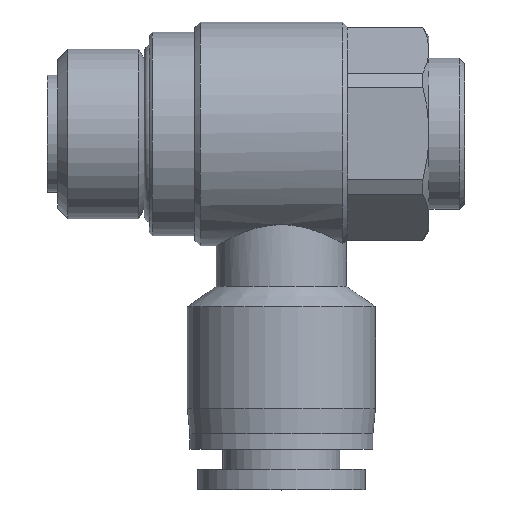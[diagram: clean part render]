
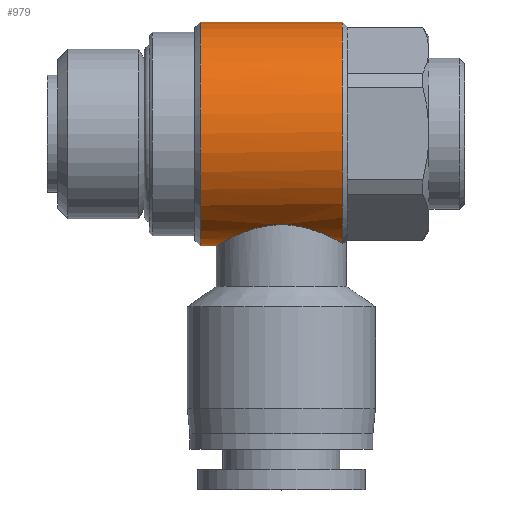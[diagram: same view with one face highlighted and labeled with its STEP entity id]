
A CAD part, top view. The second image highlights one B-rep face of the part: STEP entity #979.
In plain terms, the highlighted cylindrical face has radius 11 mm (diameter 22 mm), a full revolution.
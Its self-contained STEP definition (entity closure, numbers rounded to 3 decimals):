
#67=B_SPLINE_CURVE_WITH_KNOTS('',3,(#1619,#1620,#1621,#1622,#1623,#1624,
#1625,#1626,#1627,#1628),.UNSPECIFIED.,.F.,.F.,(4,2,2,2,4),(0.,0.249,
0.498,0.745,0.771),.UNSPECIFIED.);
#68=B_SPLINE_CURVE_WITH_KNOTS('',3,(#1629,#1630,#1631,#1632,#1633,#1634,
#1635,#1636,#1637,#1638,#1639,#1640,#1641,#1642,#1643,#1644,#1645,#1646,
#1647,#1648,#1649,#1650,#1651,#1652,#1653,#1654),.UNSPECIFIED.,.F.,.F.,
(4,2,2,2,2,2,2,2,2,2,2,2,4),(1.214,1.24,1.488,
1.736,1.985,2.234,2.483,2.73,
2.978,3.225,3.473,3.722,3.97),
 .UNSPECIFIED.);
#168=CYLINDRICAL_SURFACE('',#1077,11.);
#196=FACE_BOUND('',#324,.T.);
#237=FACE_OUTER_BOUND('',#323,.T.);
#323=EDGE_LOOP('',(#743));
#324=EDGE_LOOP('',(#744,#745,#746));
#431=CIRCLE('',#1076,11.);
#432=CIRCLE('',#1078,11.);
#509=VERTEX_POINT('',#1602);
#510=VERTEX_POINT('',#1603);
#511=VERTEX_POINT('',#1616);
#512=VERTEX_POINT('',#1618);
#607=EDGE_CURVE('',#509,#510,#431,.T.);
#608=EDGE_CURVE('',#511,#511,#432,.T.);
#609=EDGE_CURVE('',#512,#509,#67,.T.);
#610=EDGE_CURVE('',#510,#512,#68,.T.);
#743=ORIENTED_EDGE('',*,*,#608,.F.);
#744=ORIENTED_EDGE('',*,*,#607,.F.);
#745=ORIENTED_EDGE('',*,*,#609,.F.);
#746=ORIENTED_EDGE('',*,*,#610,.F.);
#979=ADVANCED_FACE('',(#237,#196),#168,.T.);
#1076=AXIS2_PLACEMENT_3D('',#1614,#1241,#1242);
#1077=AXIS2_PLACEMENT_3D('',#1615,#1243,#1244);
#1078=AXIS2_PLACEMENT_3D('',#1617,#1245,#1246);
#1241=DIRECTION('center_axis',(1.,0.,0.));
#1242=DIRECTION('ref_axis',(0.,1.,0.));
#1243=DIRECTION('center_axis',(1.,0.,0.));
#1244=DIRECTION('ref_axis',(0.,1.,0.));
#1245=DIRECTION('center_axis',(-1.,0.,0.));
#1246=DIRECTION('ref_axis',(0.,-1.,0.));
#1602=CARTESIAN_POINT('',(6.,-10.772,-2.227));
#1603=CARTESIAN_POINT('',(6.,-10.772,2.227));
#1614=CARTESIAN_POINT('Origin',(6.,0.,0.));
#1615=CARTESIAN_POINT('Origin',(10.5,0.,0.));
#1616=CARTESIAN_POINT('',(-8.,11.,0.));
#1617=CARTESIAN_POINT('Origin',(-8.,0.,0.));
#1618=CARTESIAN_POINT('',(0.,-8.947,-6.4));
#1619=CARTESIAN_POINT('Ctrl Pts',(0.,-8.947,-6.4));
#1620=CARTESIAN_POINT('Ctrl Pts',(0.829,-8.947,-6.4));
#1621=CARTESIAN_POINT('Ctrl Pts',(1.694,-9.074,-6.23));
#1622=CARTESIAN_POINT('Ctrl Pts',(3.261,-9.492,-5.572));
#1623=CARTESIAN_POINT('Ctrl Pts',(3.967,-9.774,-5.084));
#1624=CARTESIAN_POINT('Ctrl Pts',(5.081,-10.277,-3.97));
#1625=CARTESIAN_POINT('Ctrl Pts',(5.571,-10.536,-3.263));
#1626=CARTESIAN_POINT('Ctrl Pts',(5.936,-10.736,-2.395));
#1627=CARTESIAN_POINT('Ctrl Pts',(5.969,-10.755,-2.311));
#1628=CARTESIAN_POINT('Ctrl Pts',(6.,-10.772,-2.227));
#1629=CARTESIAN_POINT('Ctrl Pts',(6.,-10.772,2.227));
#1630=CARTESIAN_POINT('Ctrl Pts',(5.969,-10.755,2.311));
#1631=CARTESIAN_POINT('Ctrl Pts',(5.936,-10.736,2.395));
#1632=CARTESIAN_POINT('Ctrl Pts',(5.571,-10.536,3.263));
#1633=CARTESIAN_POINT('Ctrl Pts',(5.081,-10.277,3.97));
#1634=CARTESIAN_POINT('Ctrl Pts',(3.967,-9.774,5.084));
#1635=CARTESIAN_POINT('Ctrl Pts',(3.261,-9.492,5.572));
#1636=CARTESIAN_POINT('Ctrl Pts',(1.694,-9.074,6.23));
#1637=CARTESIAN_POINT('Ctrl Pts',(0.829,-8.947,6.4));
#1638=CARTESIAN_POINT('Ctrl Pts',(-0.829,-8.947,
6.4));
#1639=CARTESIAN_POINT('Ctrl Pts',(-1.694,-9.074,6.23));
#1640=CARTESIAN_POINT('Ctrl Pts',(-3.261,-9.492,5.572));
#1641=CARTESIAN_POINT('Ctrl Pts',(-3.967,-9.774,5.084));
#1642=CARTESIAN_POINT('Ctrl Pts',(-5.081,-10.277,3.97));
#1643=CARTESIAN_POINT('Ctrl Pts',(-5.571,-10.536,3.263));
#1644=CARTESIAN_POINT('Ctrl Pts',(-6.231,-10.899,1.692));
#1645=CARTESIAN_POINT('Ctrl Pts',(-6.4,-11.,0.825));
#1646=CARTESIAN_POINT('Ctrl Pts',(-6.4,-11.,-0.825));
#1647=CARTESIAN_POINT('Ctrl Pts',(-6.231,-10.899,-1.692));
#1648=CARTESIAN_POINT('Ctrl Pts',(-5.571,-10.536,-3.263));
#1649=CARTESIAN_POINT('Ctrl Pts',(-5.081,-10.277,-3.97));
#1650=CARTESIAN_POINT('Ctrl Pts',(-3.967,-9.774,-5.084));
#1651=CARTESIAN_POINT('Ctrl Pts',(-3.261,-9.492,-5.572));
#1652=CARTESIAN_POINT('Ctrl Pts',(-1.694,-9.074,-6.23));
#1653=CARTESIAN_POINT('Ctrl Pts',(-0.829,-8.947,
-6.4));
#1654=CARTESIAN_POINT('Ctrl Pts',(0.,-8.947,
-6.4));
